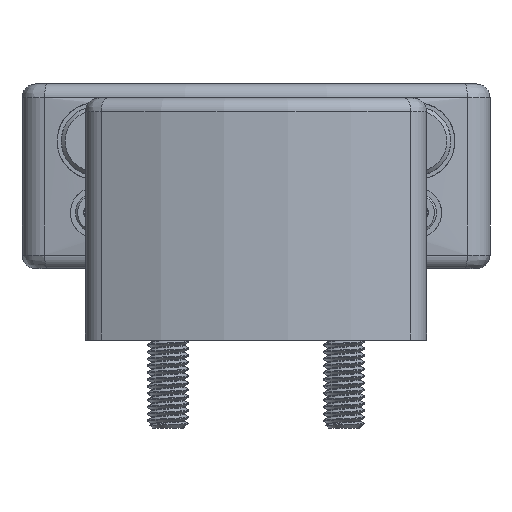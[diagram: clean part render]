
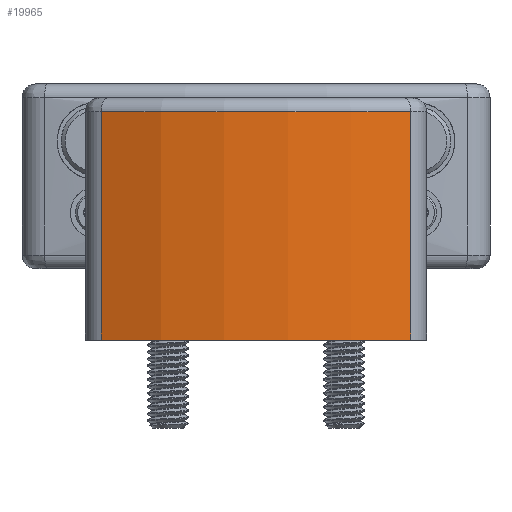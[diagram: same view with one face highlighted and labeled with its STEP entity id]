
A CAD part, left-side view. The second image highlights one B-rep face of the part: STEP entity #19965.
In plain terms, the highlighted cylindrical face has radius 42.164 mm (diameter 84.328 mm), a partial arc.
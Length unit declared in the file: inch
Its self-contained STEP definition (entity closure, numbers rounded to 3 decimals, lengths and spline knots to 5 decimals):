
#2277=FACE_OUTER_BOUND('',#3423,.T.);
#3423=EDGE_LOOP('',(#18282,#18283,#18284,#18285));
#4174=CIRCLE('',#21823,1.66);
#4175=CIRCLE('',#21824,1.66);
#5975=LINE('',#53293,#7591);
#5976=LINE('',#53297,#7592);
#7591=VECTOR('',#27099,1.);
#7592=VECTOR('',#27102,1.);
#9540=VERTEX_POINT('',#53291);
#9541=VERTEX_POINT('',#53292);
#9542=VERTEX_POINT('',#53294);
#9543=VERTEX_POINT('',#53296);
#12476=EDGE_CURVE('',#9540,#9541,#5975,.T.);
#12477=EDGE_CURVE('',#9540,#9542,#4174,.T.);
#12478=EDGE_CURVE('',#9543,#9542,#5976,.T.);
#12479=EDGE_CURVE('',#9541,#9543,#4175,.T.);
#18282=ORIENTED_EDGE('',*,*,#12476,.F.);
#18283=ORIENTED_EDGE('',*,*,#12477,.T.);
#18284=ORIENTED_EDGE('',*,*,#12478,.F.);
#18285=ORIENTED_EDGE('',*,*,#12479,.F.);
#18897=CYLINDRICAL_SURFACE('',#21822,1.66);
#19965=ADVANCED_FACE('',(#2277),#18897,.T.);
#21822=AXIS2_PLACEMENT_3D('',#53290,#27097,#27098);
#21823=AXIS2_PLACEMENT_3D('',#53295,#27100,#27101);
#21824=AXIS2_PLACEMENT_3D('',#53298,#27103,#27104);
#27097=DIRECTION('center_axis',(0.,0.,
1.));
#27098=DIRECTION('ref_axis',(-0.884,0.467,0.));
#27099=DIRECTION('',(0.,0.,1.));
#27100=DIRECTION('center_axis',(0.,0.,
1.));
#27101=DIRECTION('ref_axis',(-0.884,0.467,0.));
#27102=DIRECTION('',(0.,0.,-1.));
#27103=DIRECTION('center_axis',(0.,0.,1.));
#27104=DIRECTION('ref_axis',(-1.,0.,0.));
#53290=CARTESIAN_POINT('Origin',(31.29325,-84.37124,11.11425));
#53291=CARTESIAN_POINT('',(29.78943,-83.66831,13.76425));
#53292=CARTESIAN_POINT('',(29.78943,-83.66831,14.80175));
#53293=CARTESIAN_POINT('',(29.78943,-83.66831,11.11425));
#53294=CARTESIAN_POINT('',(29.78943,-85.07417,13.76425));
#53295=CARTESIAN_POINT('Origin',(31.29325,-84.37124,13.76425));
#53296=CARTESIAN_POINT('',(29.78943,-85.07417,14.80175));
#53297=CARTESIAN_POINT('',(29.78943,-85.07417,11.11425));
#53298=CARTESIAN_POINT('Origin',(31.29325,-84.37124,14.80175));
